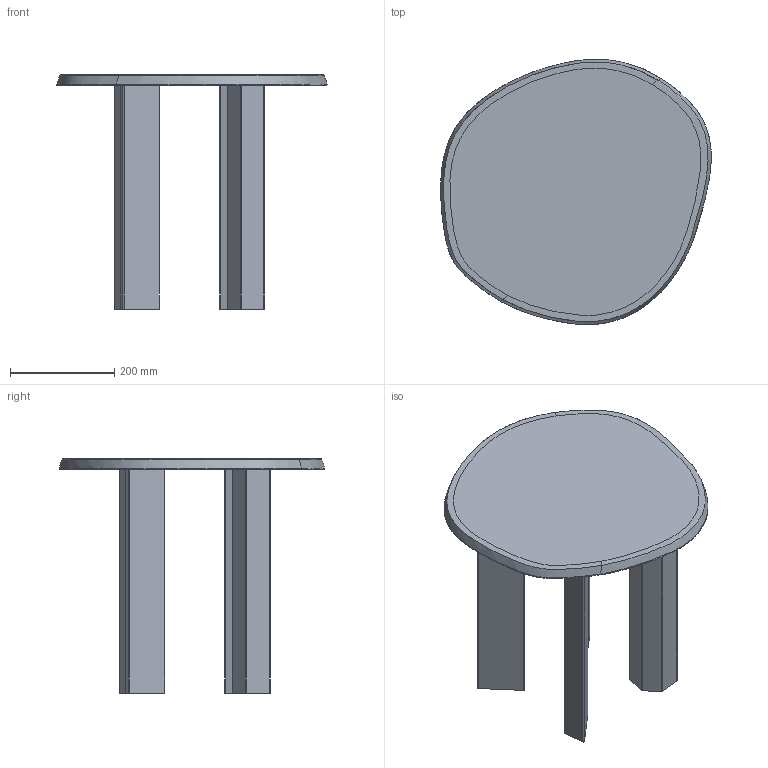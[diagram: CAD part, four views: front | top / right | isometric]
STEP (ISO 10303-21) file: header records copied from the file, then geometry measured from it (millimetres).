
FILE_DESCRIPTION(/* description */ (''),/* implementation_level */ '2;1');
FILE_NAME(/* name */ 'Taula side table_3D',/* time_stamp */ '2024-09-03T15:32:37+02:00',/* author */ (''),/* organization */ (''),/* preprocessor_version */ 'ST-DEVELOPER v16.5',/* originating_system */ 'Rhino 7.37',/* authorisation */ '');
FILE_SCHEMA (('CONFIG_CONTROL_DESIGN'));
Length unit declared in the file: millimetre
Products named in the file (1): Document
Bounding box: 520.18 x 510.43 x 450 mm (x, y, z)
Volume: 8742851.9 mm3; surface area: 851293.8 mm2
Topology: 5 solids, 5 shells, 48 faces, 110 edges, 72 vertices
Faces by surface type: plane 26, cylinder 16, bspline 6
Entity records: 1942 total; most frequent: CARTESIAN_POINT 1170, ORIENTED_EDGE 220, EDGE_CURVE 110, VERTEX_POINT 72, ADVANCED_FACE 48, FACE_OUTER_BOUND 48, EDGE_LOOP 48, DIRECTION 46
